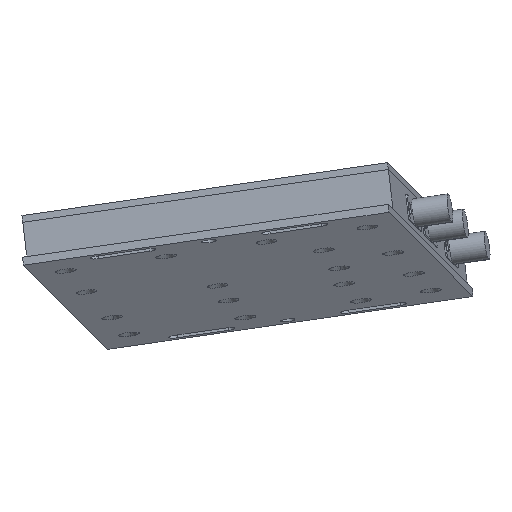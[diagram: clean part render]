
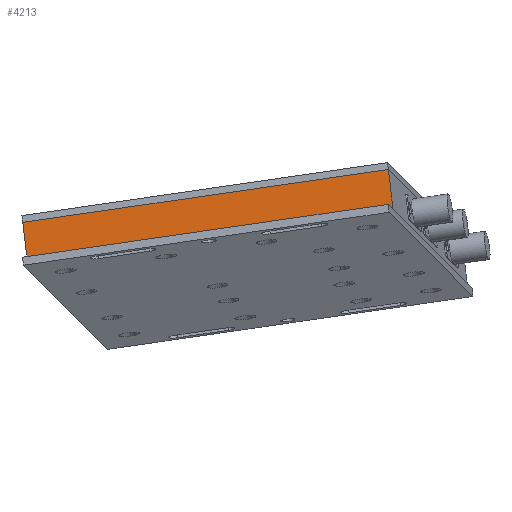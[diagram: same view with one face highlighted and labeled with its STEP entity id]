
A CAD part, front view. The second image highlights one B-rep face of the part: STEP entity #4213.
In plain terms, the highlighted planar face has unit normal (-0.168, -0.971, 0.168) as drawn and (0, -1, 0) by its records, which use the part's own axes.
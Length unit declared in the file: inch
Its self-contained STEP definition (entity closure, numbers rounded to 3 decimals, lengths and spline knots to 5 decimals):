
#2947 = FACE_OUTER_BOUND ( 'NONE', #6224, .T. ) ;
#4213 = ADVANCED_FACE ( 'NONE', ( #2947 ), #13000, .F. ) ;
#6033 = EDGE_CURVE ( 'NONE', #8454, #8315, #15484, .T. ) ;
#6045 = EDGE_CURVE ( 'NONE', #8281, #8315, #15504, .T. ) ;
#6203 = EDGE_CURVE ( 'NONE', #8460, #8281, #19322, .T. ) ;
#6224 = EDGE_LOOP ( 'NONE', ( #11437, #11546, #11419, #11554 ) ) ;
#8281 = VERTEX_POINT ( 'NONE', #18568 ) ;
#8315 = VERTEX_POINT ( 'NONE', #18602 ) ;
#8454 = VERTEX_POINT ( 'NONE', #18739 ) ;
#8460 = VERTEX_POINT ( 'NONE', #18745 ) ;
#11419 = ORIENTED_EDGE ( 'NONE', *, *, #19090, .F. ) ;
#11437 = ORIENTED_EDGE ( 'NONE', *, *, #6045, .F. ) ;
#11546 = ORIENTED_EDGE ( 'NONE', *, *, #6203, .F. ) ;
#11554 = ORIENTED_EDGE ( 'NONE', *, *, #6033, .T. ) ;
#12992 = CARTESIAN_POINT ( 'NONE',  ( 0., 0., 0.36 ) ) ;
#13000 = PLANE ( 'NONE',  #13163 ) ;
#13002 = DIRECTION ( 'NONE',  ( 0., 1., 0. ) ) ;
#13003 = DIRECTION ( 'NONE',  ( 0., 0., 1. ) ) ;
#13163 = AXIS2_PLACEMENT_3D ( 'NONE', #12992, #13002, #13003 ) ;
#15484 = LINE ( 'NONE', #17571, #15486 ) ;
#15486 = VECTOR ( 'NONE', #17566, 39.37008 ) ;
#15504 = LINE ( 'NONE', #17598, #15506 ) ;
#15506 = VECTOR ( 'NONE', #17599, 39.37008 ) ;
#17566 = DIRECTION ( 'NONE',  ( 0., 0., 1. ) ) ;
#17571 = CARTESIAN_POINT ( 'NONE',  ( 3.205, 0., 0.36 ) ) ;
#17598 = CARTESIAN_POINT ( 'NONE',  ( 0., 0., 0.35 ) ) ;
#17599 = DIRECTION ( 'NONE',  ( 1., 0., 0. ) ) ;
#18525 = CARTESIAN_POINT ( 'NONE',  ( 0., 0., 0.36 ) ) ;
#18527 = DIRECTION ( 'NONE',  ( 0., 0., 1. ) ) ;
#18568 = CARTESIAN_POINT ( 'NONE',  ( 0., 0., 0.35 ) ) ;
#18602 = CARTESIAN_POINT ( 'NONE',  ( 3.205, 0., 0.35 ) ) ;
#18739 = CARTESIAN_POINT ( 'NONE',  ( 3.205, 0., 0. ) ) ;
#18745 = CARTESIAN_POINT ( 'NONE',  ( 0., 0., 0. ) ) ;
#19090 = EDGE_CURVE ( 'NONE', #8454, #8460, #20319, .T. ) ;
#19322 = LINE ( 'NONE', #18525, #19325 ) ;
#19325 = VECTOR ( 'NONE', #18527, 39.37008 ) ;
#20319 = LINE ( 'NONE', #22228, #20322 ) ;
#20322 = VECTOR ( 'NONE', #22229, 39.37008 ) ;
#22228 = CARTESIAN_POINT ( 'NONE',  ( 0., 0., 0. ) ) ;
#22229 = DIRECTION ( 'NONE',  ( -1., 0., 0. ) ) ;
